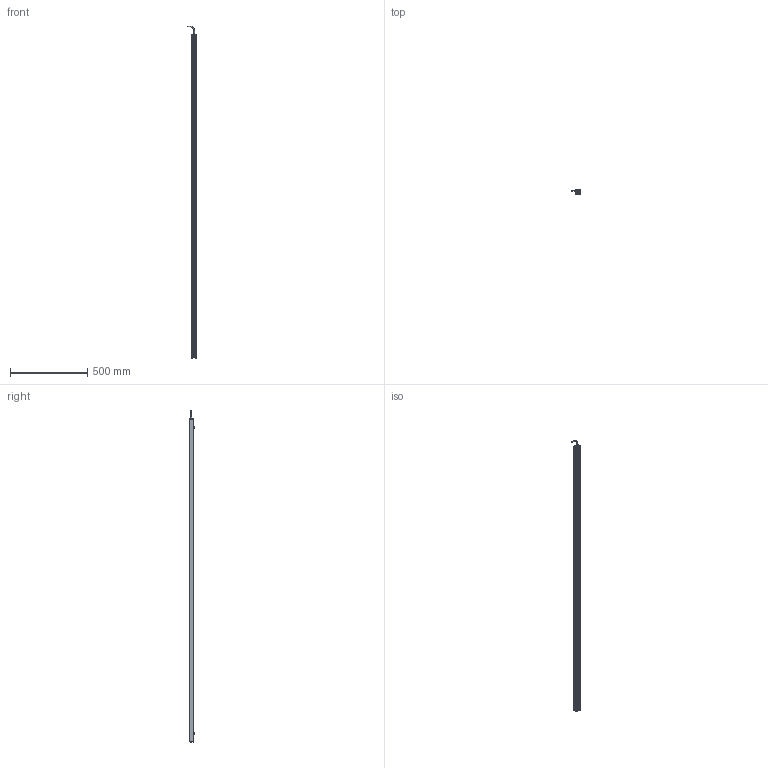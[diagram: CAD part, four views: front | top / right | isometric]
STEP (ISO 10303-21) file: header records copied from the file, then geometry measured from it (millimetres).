
FILE_DESCRIPTION (( 'STEP AP214' ), '1' );
FILE_NAME ('AL150XXXX_AL150480.stp', '2021-04-29T15:42:11', ( '' ), ( '' ), 'SwSTEP 2.0', 'SolidWorks 2018', '' );
FILE_SCHEMA (( 'AUTOMOTIVE_DESIGN' ));
Length unit declared in the file: inch
Products named in the file (12): 116-02-007; Part2^AL150XXXX; 092408_TRUNCATED; Part1^AL150XXXX; 150-03-006-XXXX_150-03-006-480; 1157 (no strap); CHM6x8_91460A312; 116-02-006; 093145_93701A253; HN-M6_90592A016; 150-01-005-XXX_150-01-005-480; AL150XXXX_AL150480
Assembly tree (18 placements, depth 2):
  Part2^AL150XXXX
  Part1^AL150XXXX
  AL150XXXX_AL150480
    150-01-005-XXX_150-01-005-480
    116-02-006
    093145_93701A253  x8
    HN-M6_90592A016  x2
    CHM6x8_91460A312  x2
    150-03-006-XXXX_150-03-006-480
    116-02-007
    1157 (no strap)
    092408_TRUNCATED
Bounding box: 60.68 x 33.84 x 2148.76 mm (x, y, z)
Volume: 646723 mm3; surface area: 681834.4 mm2
Topology: 26 solids, 26 shells, 1306 faces, 3436 edges, 2127 vertices
Faces by surface type: cylinder 805, cone 249, plane 153, torus 59, bspline 32, sphere 8
Entity records: 18285 total; most frequent: CARTESIAN_POINT 6069, ORIENTED_EDGE 2496, DIRECTION 2311, EDGE_CURVE 1248, AXIS2_PLACEMENT_3D 881, VERTEX_POINT 800, LINE 549, VECTOR 549
